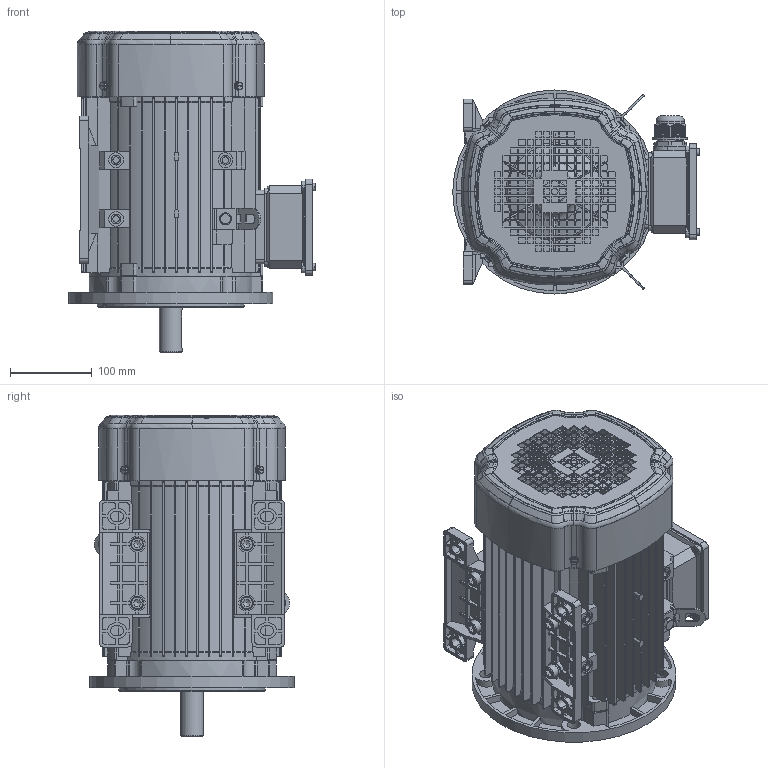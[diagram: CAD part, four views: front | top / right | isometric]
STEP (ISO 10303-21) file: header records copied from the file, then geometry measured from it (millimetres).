
FILE_DESCRIPTION(/* description */ (''),/* implementation_level */ '2;1');
FILE_NAME(/* name */ 'JL3-112-B35.stp',/* time_stamp */ '2014-09-18T09:54:52+08:00',/* author */ (''),/* organization */ (''),/* preprocessor_version */ 'ST-DEVELOPER v14',/* originating_system */ 'SIEMENS PLM Software NX 8.0',/* authorisation */ '');
FILE_SCHEMA (('AUTOMOTIVE_DESIGN { 1 0 10303 214 3 1 1 1 }'));
Length unit declared in the file: millimetre
Products named in the file (1): jl0BD025D92mej
Bounding box: 302 x 250 x 394 mm (x, y, z)
Volume: 2618215.8 mm3; surface area: 1353056.1 mm2
Topology: 56 solids, 56 shells, 4660 faces, 13017 edges, 8603 vertices
Faces by surface type: plane 2521, cylinder 1525, bspline 288, cone 168, torus 158
Full cylindrical faces by diameter (mm): 4 x4, 4.48 x8, 4.8 x10, 5 x19, 5.3 x4, 5.8 x14, 8 x34, 8.58 x2, 10 x12, 11 x6, 12 x16, 13 x7, 14.785 x2, 16 x11, 17 x4, 18 x16, 22 x1, 26 x3, 26.6 x1, 27 x1, 27.2 x1, 28 x1, 28.2 x3, 29 x2, 30 x16, 31 x6, 32 x18, 33 x6, 34 x6, 34.5 x1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
Entity records: 205621 total; most frequent: CARTESIAN_POINT 88454, ORIENTED_EDGE 24752, DIRECTION 22637, EDGE_CURVE 12376, VERTEX_POINT 8377, AXIS2_PLACEMENT_3D 7805, LINE 7027, VECTOR 7027
